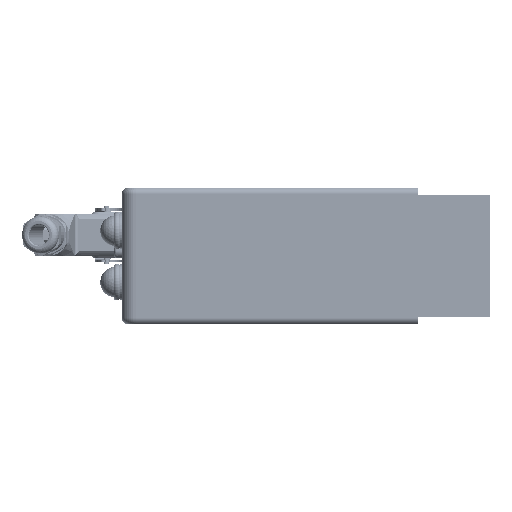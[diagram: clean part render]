
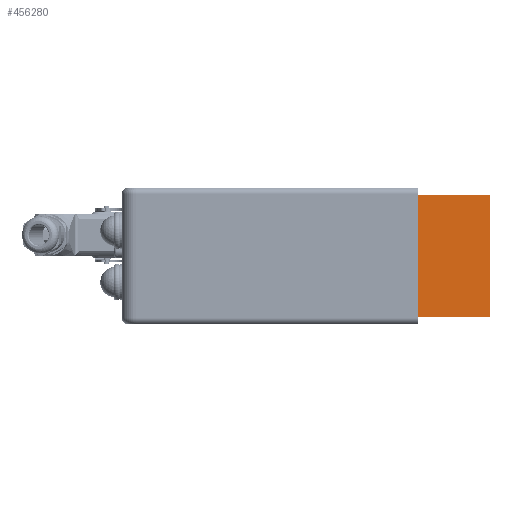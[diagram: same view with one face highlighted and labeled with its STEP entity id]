
A CAD part, left-side view. The second image highlights one B-rep face of the part: STEP entity #456280.
In plain terms, the highlighted planar face has unit normal (-1, 0, 0).
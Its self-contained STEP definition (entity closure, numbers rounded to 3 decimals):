
#23911 = DIRECTION ( 'NONE',  ( 0., 0., -1. ) ) ;
#30407 = VECTOR ( 'NONE', #469845, 1000. ) ;
#98706 = LINE ( 'NONE', #259761, #505625 ) ;
#99276 = LINE ( 'NONE', #349270, #136369 ) ;
#102876 = ORIENTED_EDGE ( 'NONE', *, *, #384062, .F. ) ;
#108752 = EDGE_LOOP ( 'NONE', ( #402247, #102876, #302164, #498737 ) ) ;
#114928 = CARTESIAN_POINT ( 'NONE',  ( -148., -16.547, -34.6 ) ) ;
#128385 = VERTEX_POINT ( 'NONE', #232088 ) ;
#136369 = VECTOR ( 'NONE', #388878, 1000. ) ;
#156285 = CARTESIAN_POINT ( 'NONE',  ( -148., 25.453, 36.4 ) ) ;
#163564 = FACE_OUTER_BOUND ( 'NONE', #108752, .T. ) ;
#200194 = AXIS2_PLACEMENT_3D ( 'NONE', #321663, #202926, #242466 ) ;
#202926 = DIRECTION ( 'NONE',  ( -1., 0., 0. ) ) ;
#203684 = CARTESIAN_POINT ( 'NONE',  ( -148., 25.453, 36.4 ) ) ;
#208719 = CARTESIAN_POINT ( 'NONE',  ( -148., -16.547, 36.4 ) ) ;
#214598 = EDGE_CURVE ( 'NONE', #128385, #240830, #99276, .T. ) ;
#225300 = EDGE_CURVE ( 'NONE', #332785, #248187, #98706, .T. ) ;
#232088 = CARTESIAN_POINT ( 'NONE',  ( -148., 25.453, -34.6 ) ) ;
#233862 = LINE ( 'NONE', #114928, #30407 ) ;
#240830 = VERTEX_POINT ( 'NONE', #203684 ) ;
#242466 = DIRECTION ( 'NONE',  ( 0., 0., -1. ) ) ;
#248187 = VERTEX_POINT ( 'NONE', #444855 ) ;
#259761 = CARTESIAN_POINT ( 'NONE',  ( -148., -16.547, 36.4 ) ) ;
#302164 = ORIENTED_EDGE ( 'NONE', *, *, #225300, .F. ) ;
#321663 = CARTESIAN_POINT ( 'NONE',  ( -148., -22.547, 0.9 ) ) ;
#332785 = VERTEX_POINT ( 'NONE', #208719 ) ;
#338545 = VECTOR ( 'NONE', #395563, 1000. ) ;
#349270 = CARTESIAN_POINT ( 'NONE',  ( -148., 25.453, 29.9 ) ) ;
#359480 = PLANE ( 'NONE',  #200194 ) ;
#384014 = EDGE_CURVE ( 'NONE', #240830, #332785, #499424, .T. ) ;
#384062 = EDGE_CURVE ( 'NONE', #248187, #128385, #233862, .T. ) ;
#388878 = DIRECTION ( 'NONE',  ( 0., 0., 1. ) ) ;
#395563 = DIRECTION ( 'NONE',  ( 0., -1., 0. ) ) ;
#402247 = ORIENTED_EDGE ( 'NONE', *, *, #214598, .F. ) ;
#444855 = CARTESIAN_POINT ( 'NONE',  ( -148., -16.547, -34.6 ) ) ;
#456280 = ADVANCED_FACE ( 'NONE', ( #163564 ), #359480, .T. ) ;
#469845 = DIRECTION ( 'NONE',  ( 0., 1., 0. ) ) ;
#498737 = ORIENTED_EDGE ( 'NONE', *, *, #384014, .F. ) ;
#499424 = LINE ( 'NONE', #156285, #338545 ) ;
#505625 = VECTOR ( 'NONE', #23911, 1000. ) ;
